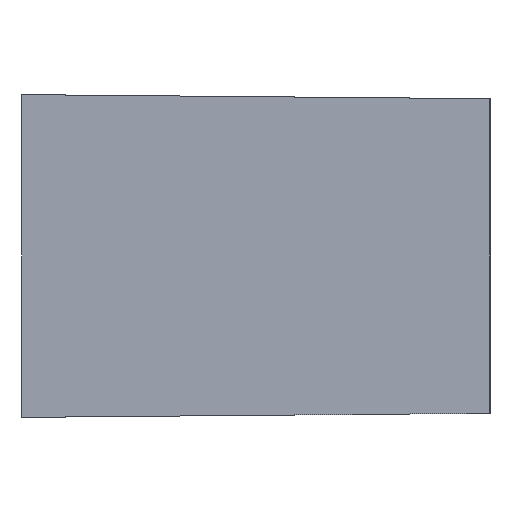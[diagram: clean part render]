
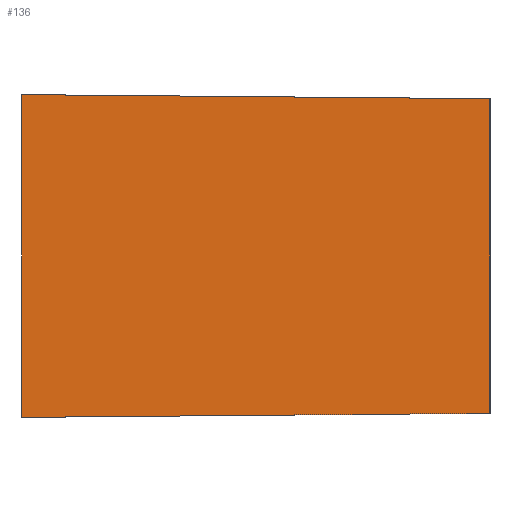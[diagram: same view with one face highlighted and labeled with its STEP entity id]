
A CAD part, left-side view. The second image highlights one B-rep face of the part: STEP entity #136.
In plain terms, the highlighted planar face has unit normal (-1, -0.009, 0).
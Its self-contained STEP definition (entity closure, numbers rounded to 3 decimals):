
#136 = ADVANCED_FACE( '', ( #266 ), #267, .T. );
#266 = FACE_OUTER_BOUND( '', #396, .T. );
#267 = PLANE( '', #397 );
#396 = EDGE_LOOP( '', ( #901, #902, #903, #904 ) );
#397 = AXIS2_PLACEMENT_3D( '', #905, #906, #907 );
#901 = ORIENTED_EDGE( '', *, *, #916, .T. );
#902 = ORIENTED_EDGE( '', *, *, #1069, .T. );
#903 = ORIENTED_EDGE( '', *, *, #932, .T. );
#904 = ORIENTED_EDGE( '', *, *, #1067, .T. );
#905 = CARTESIAN_POINT( '', ( -5., 0., 10. ) );
#906 = DIRECTION( '', ( -1., -0.009, 0. ) );
#907 = DIRECTION( '', ( -0.009, 1., 0. ) );
#916 = EDGE_CURVE( '', #1086, #1087, #1088, .T. );
#932 = EDGE_CURVE( '', #1118, #1119, #1120, .T. );
#1067 = EDGE_CURVE( '', #1119, #1086, #1337, .T. );
#1069 = EDGE_CURVE( '', #1087, #1118, #1339, .T. );
#1086 = VERTEX_POINT( '', #1360 );
#1087 = VERTEX_POINT( '', #1361 );
#1088 = LINE( '', #1362, #1363 );
#1118 = VERTEX_POINT( '', #1404 );
#1119 = VERTEX_POINT( '', #1405 );
#1120 = LINE( '', #1406, #1407 );
#1337 = LINE( '', #1714, #1715 );
#1339 = LINE( '', #1718, #1719 );
#1360 = CARTESIAN_POINT( '', ( -4.747, -29., 9.747 ) );
#1361 = CARTESIAN_POINT( '', ( -5., 0., 10. ) );
#1362 = CARTESIAN_POINT( '', ( -4.872, -14.7, 9.872 ) );
#1363 = VECTOR( '', #1736, 1. );
#1404 = CARTESIAN_POINT( '', ( -5., 0., -10. ) );
#1405 = CARTESIAN_POINT( '', ( -4.747, -29., -9.747 ) );
#1406 = CARTESIAN_POINT( '', ( -4.997, -0.288, -9.997 ) );
#1407 = VECTOR( '', #1760, 1. );
#1714 = CARTESIAN_POINT( '', ( -4.747, -29., 0.127 ) );
#1715 = VECTOR( '', #1983, 1. );
#1718 = CARTESIAN_POINT( '', ( -5., 0., 10. ) );
#1719 = VECTOR( '', #1985, 1. );
#1736 = DIRECTION( '', ( -0.009, 1., 0.009 ) );
#1760 = DIRECTION( '', ( 0.009, -1., 0.009 ) );
#1983 = DIRECTION( '', ( 0., 0., 1. ) );
#1985 = DIRECTION( '', ( 0., 0., -1. ) );
